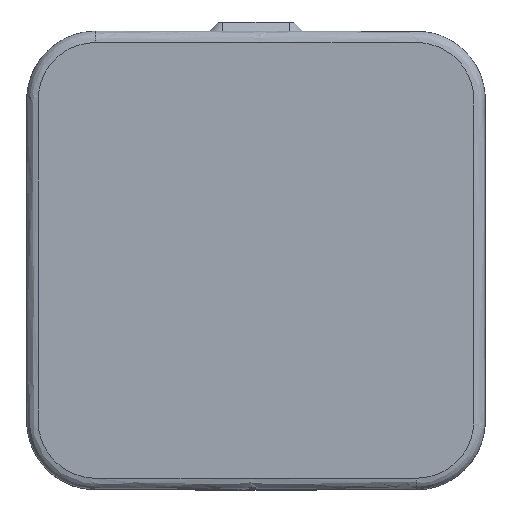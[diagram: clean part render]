
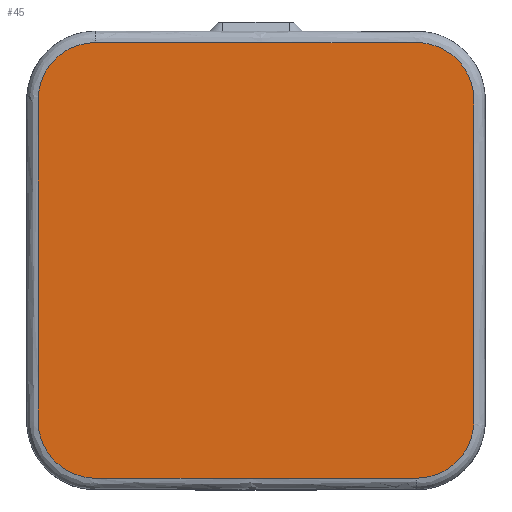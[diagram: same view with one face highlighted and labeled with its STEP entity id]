
A CAD part, top view. The second image highlights one B-rep face of the part: STEP entity #45.
In plain terms, the highlighted planar face has unit normal (0, 0, 1).
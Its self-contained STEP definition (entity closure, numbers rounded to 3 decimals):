
#45=ADVANCED_FACE('',(#195),#2366,.T.);
#195=FACE_OUTER_BOUND('',#349,.T.);
#349=EDGE_LOOP('',(#636,#637));
#636=ORIENTED_EDGE('',*,*,#1460,.T.);
#637=ORIENTED_EDGE('',*,*,#1636,.T.);
#1460=EDGE_CURVE('',#2223,#2321,#1674,.T.);
#1636=EDGE_CURVE('',#2321,#2223,#1689,.T.);
#1674=(
BOUNDED_CURVE()
B_SPLINE_CURVE(3,(#4295,#4296,#4297,#4298,#4299,#4300,#4301,#4302,#4303,
#4304,#4305,#4306,#4307,#4308,#4309,#4310,#4311,#4312,#4313),
 .UNSPECIFIED.,.F.,.F.)
B_SPLINE_CURVE_WITH_KNOTS((4,1,1,1,3,3,1,1,1,3,4),(0.,5.101,
9.817,14.534,19.635,89.635,94.736,
99.452,104.169,109.27,179.27),
 .UNSPECIFIED.)
CURVE()
GEOMETRIC_REPRESENTATION_ITEM()
RATIONAL_B_SPLINE_CURVE((1.,1.,1.,1.,1.,
1.,1.,1.,1.,1.,1.,1.,1.,1.,1.,
1.,1.,1.,1.))
REPRESENTATION_ITEM('')
);
#1689=(
BOUNDED_CURVE()
B_SPLINE_CURVE(3,(#4727,#4728,#4729,#4730,#4731,#4732,#4733,#4734,#4735,
#4736,#4737,#4738,#4739,#4740,#4741,#4742,#4743,#4744,#4745),
 .UNSPECIFIED.,.F.,.F.)
B_SPLINE_CURVE_WITH_KNOTS((4,1,1,1,3,3,1,1,1,3,4),(179.27,184.371,
189.087,193.803,198.904,268.905,274.006,
278.722,283.438,288.539,358.539),
 .UNSPECIFIED.)
CURVE()
GEOMETRIC_REPRESENTATION_ITEM()
RATIONAL_B_SPLINE_CURVE((1.,1.,1.,1.,1.,1.,
1.,1.,1.,1.,1.,1.,1.,1.,1.,1.,1.,
1.,1.))
REPRESENTATION_ITEM('')
);
#2223=VERTEX_POINT('',#3606);
#2321=VERTEX_POINT('',#3704);
#2366=PLANE('',#2582);
#2582=AXIS2_PLACEMENT_3D('',#3120,#2786,$);
#2786=DIRECTION('',(0.,0.,1.));
#3120=CARTESIAN_POINT('',(90.503,359.784,36.));
#3606=CARTESIAN_POINT('',(118.003,344.784,36.));
#3704=CARTESIAN_POINT('',(188.003,249.784,36.));
#4295=CARTESIAN_POINT('',(118.003,344.784,36.));
#4296=CARTESIAN_POINT('',(116.303,344.785,36.));
#4297=CARTESIAN_POINT('',(113.031,344.106,36.));
#4298=CARTESIAN_POINT('',(108.952,341.335,36.));
#4299=CARTESIAN_POINT('',(106.181,337.256,36.));
#4300=CARTESIAN_POINT('',(105.502,333.984,36.));
#4301=CARTESIAN_POINT('',(105.503,332.284,36.));
#4302=CARTESIAN_POINT('',(105.503,308.95,36.));
#4303=CARTESIAN_POINT('',(105.503,285.617,36.));
#4304=CARTESIAN_POINT('',(105.503,262.284,36.));
#4305=CARTESIAN_POINT('',(105.502,260.583,36.));
#4306=CARTESIAN_POINT('',(106.181,257.312,36.));
#4307=CARTESIAN_POINT('',(108.952,253.232,36.));
#4308=CARTESIAN_POINT('',(113.031,250.461,36.));
#4309=CARTESIAN_POINT('',(116.303,249.782,36.));
#4310=CARTESIAN_POINT('',(118.003,249.784,36.));
#4311=CARTESIAN_POINT('',(141.337,249.784,36.));
#4312=CARTESIAN_POINT('',(164.67,249.784,36.));
#4313=CARTESIAN_POINT('',(188.003,249.784,36.));
#4727=CARTESIAN_POINT('',(188.003,249.784,36.));
#4728=CARTESIAN_POINT('',(189.704,249.782,36.));
#4729=CARTESIAN_POINT('',(192.975,250.461,36.));
#4730=CARTESIAN_POINT('',(197.055,253.232,36.));
#4731=CARTESIAN_POINT('',(199.826,257.312,36.));
#4732=CARTESIAN_POINT('',(200.505,260.583,36.));
#4733=CARTESIAN_POINT('',(200.503,262.284,36.));
#4734=CARTESIAN_POINT('',(200.503,285.617,36.));
#4735=CARTESIAN_POINT('',(200.503,308.95,36.));
#4736=CARTESIAN_POINT('',(200.503,332.284,36.));
#4737=CARTESIAN_POINT('',(200.505,333.984,36.));
#4738=CARTESIAN_POINT('',(199.826,337.256,36.));
#4739=CARTESIAN_POINT('',(197.055,341.335,36.));
#4740=CARTESIAN_POINT('',(192.975,344.106,36.));
#4741=CARTESIAN_POINT('',(189.704,344.785,36.));
#4742=CARTESIAN_POINT('',(188.003,344.784,36.));
#4743=CARTESIAN_POINT('',(164.67,344.784,36.));
#4744=CARTESIAN_POINT('',(141.337,344.784,36.));
#4745=CARTESIAN_POINT('',(118.003,344.784,36.));
